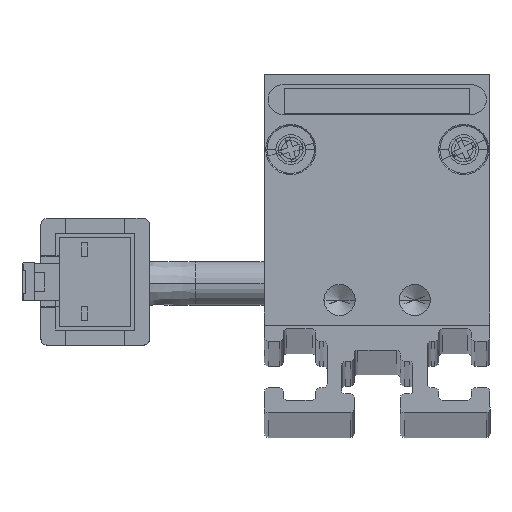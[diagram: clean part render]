
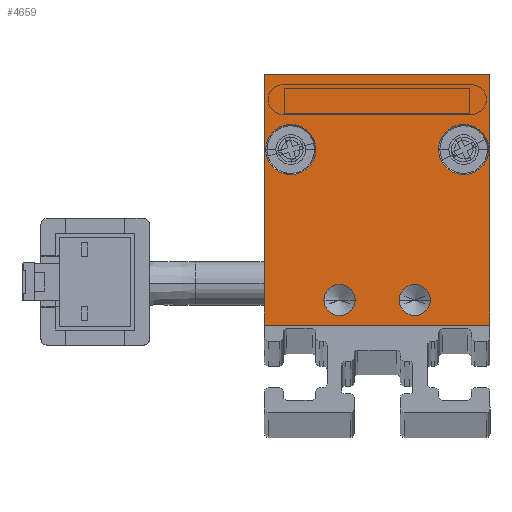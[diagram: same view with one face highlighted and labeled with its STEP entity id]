
A CAD part, top view. The second image highlights one B-rep face of the part: STEP entity #4659.
In plain terms, the highlighted planar face has unit normal (0, 0, 1) as drawn and (0, 0, -1) by its records, which use the part's own axes.
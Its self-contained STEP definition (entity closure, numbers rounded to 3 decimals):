
#134 = CIRCLE ( 'NONE', #8807, 1.25 ) ;
#322 = ORIENTED_EDGE ( 'NONE', *, *, #5099, .F. ) ;
#612 = CIRCLE ( 'NONE', #7459, 1.25 ) ;
#624 = VECTOR ( 'NONE', #8950, 1000. ) ;
#724 = DIRECTION ( 'NONE',  ( -1., 0., 0. ) ) ;
#808 = LINE ( 'NONE', #6483, #10125 ) ;
#876 = CARTESIAN_POINT ( 'NONE',  ( 8.9, 14., -2.5 ) ) ;
#1045 = DIRECTION ( 'NONE',  ( 0., -1., 0. ) ) ;
#1299 = CARTESIAN_POINT ( 'NONE',  ( 9., 20., -2.5 ) ) ;
#1657 = ORIENTED_EDGE ( 'NONE', *, *, #1908, .F. ) ;
#1800 = VERTEX_POINT ( 'NONE', #876 ) ;
#1811 = EDGE_CURVE ( 'NONE', #2654, #5272, #3665, .T. ) ;
#1815 = DIRECTION ( 'NONE',  ( 0., 0., -1. ) ) ;
#1852 = CIRCLE ( 'NONE', #8911, 2. ) ;
#1891 = CARTESIAN_POINT ( 'NONE',  ( 1.75, 2., -2.5 ) ) ;
#1908 = EDGE_CURVE ( 'NONE', #2662, #10250, #808, .T. ) ;
#2478 = DIRECTION ( 'NONE',  ( 1., 0., 0. ) ) ;
#2497 = CARTESIAN_POINT ( 'NONE',  ( 6.9, 14., -2.5 ) ) ;
#2654 = VERTEX_POINT ( 'NONE', #10065 ) ;
#2662 = VERTEX_POINT ( 'NONE', #4433 ) ;
#2724 = DIRECTION ( 'NONE',  ( -1., 0., 0. ) ) ;
#2842 = VECTOR ( 'NONE', #2478, 1000. ) ;
#3030 = CIRCLE ( 'NONE', #7474, 1.25 ) ;
#3171 = EDGE_LOOP ( 'NONE', ( #322, #1657, #4487, #11681 ) ) ;
#3452 = DIRECTION ( 'NONE',  ( -1., 0., 0. ) ) ;
#3475 = CARTESIAN_POINT ( 'NONE',  ( -6.9, 14., -2.5 ) ) ;
#3518 = CARTESIAN_POINT ( 'NONE',  ( -9., 20., -2.5 ) ) ;
#3665 = CIRCLE ( 'NONE', #7897, 2. ) ;
#3709 = CARTESIAN_POINT ( 'NONE',  ( -6.9, 14., -2.5 ) ) ;
#3867 = CIRCLE ( 'NONE', #5066, 1.25 ) ;
#3903 = DIRECTION ( 'NONE',  ( 1., 0., 0. ) ) ;
#4241 = DIRECTION ( 'NONE',  ( 0., 0., -1. ) ) ;
#4433 = CARTESIAN_POINT ( 'NONE',  ( 9., 20., -2.5 ) ) ;
#4487 = ORIENTED_EDGE ( 'NONE', *, *, #8927, .F. ) ;
#4659 = ADVANCED_FACE ( 'NONE', ( #5653, #12359, #4773, #11543, #7614 ), #9654, .F. ) ;
#4773 = FACE_BOUND ( 'NONE', #11404, .T. ) ;
#5066 = AXIS2_PLACEMENT_3D ( 'NONE', #10307, #5743, #2724 ) ;
#5099 = EDGE_CURVE ( 'NONE', #10250, #10724, #5567, .T. ) ;
#5272 = VERTEX_POINT ( 'NONE', #11884 ) ;
#5434 = CARTESIAN_POINT ( 'NONE',  ( -9., 0., -2.5 ) ) ;
#5510 = DIRECTION ( 'NONE',  ( 0., 0., -1. ) ) ;
#5567 = LINE ( 'NONE', #11588, #9630 ) ;
#5653 = FACE_BOUND ( 'NONE', #7984, .T. ) ;
#5679 = EDGE_LOOP ( 'NONE', ( #12428, #7515 ) ) ;
#5743 = DIRECTION ( 'NONE',  ( 0., 0., -1. ) ) ;
#5942 = ORIENTED_EDGE ( 'NONE', *, *, #6111, .F. ) ;
#6059 = ORIENTED_EDGE ( 'NONE', *, *, #11824, .F. ) ;
#6098 = CARTESIAN_POINT ( 'NONE',  ( -3., 2., -2.5 ) ) ;
#6111 = EDGE_CURVE ( 'NONE', #1800, #11290, #8693, .T. ) ;
#6356 = EDGE_CURVE ( 'NONE', #8385, #12085, #3030, .T. ) ;
#6411 = DIRECTION ( 'NONE',  ( -1., 0., 0. ) ) ;
#6483 = CARTESIAN_POINT ( 'NONE',  ( -9., 20., -2.5 ) ) ;
#6504 = ORIENTED_EDGE ( 'NONE', *, *, #6356, .F. ) ;
#6562 = EDGE_CURVE ( 'NONE', #10724, #10153, #10251, .T. ) ;
#6971 = DIRECTION ( 'NONE',  ( -1., 0., 0. ) ) ;
#7211 = ORIENTED_EDGE ( 'NONE', *, *, #12304, .F. ) ;
#7294 = CARTESIAN_POINT ( 'NONE',  ( 6.9, 14., -2.5 ) ) ;
#7312 = DIRECTION ( 'NONE',  ( 0., 0., -1. ) ) ;
#7459 = AXIS2_PLACEMENT_3D ( 'NONE', #9954, #7978, #6971 ) ;
#7474 = AXIS2_PLACEMENT_3D ( 'NONE', #11780, #4241, #9880 ) ;
#7507 = DIRECTION ( 'NONE',  ( -1., 0., 0. ) ) ;
#7515 = ORIENTED_EDGE ( 'NONE', *, *, #1811, .F. ) ;
#7572 = CARTESIAN_POINT ( 'NONE',  ( 4.9, 14., -2.5 ) ) ;
#7614 = FACE_OUTER_BOUND ( 'NONE', #3171, .T. ) ;
#7628 = ORIENTED_EDGE ( 'NONE', *, *, #11350, .F. ) ;
#7803 = DIRECTION ( 'NONE',  ( 0., 0., 1. ) ) ;
#7897 = AXIS2_PLACEMENT_3D ( 'NONE', #3709, #1815, #12295 ) ;
#7978 = DIRECTION ( 'NONE',  ( 0., 0., -1. ) ) ;
#7984 = EDGE_LOOP ( 'NONE', ( #12207, #5942 ) ) ;
#7996 = DIRECTION ( 'NONE',  ( 0., 0., -1. ) ) ;
#8268 = AXIS2_PLACEMENT_3D ( 'NONE', #2497, #5510, #724 ) ;
#8385 = VERTEX_POINT ( 'NONE', #11494 ) ;
#8610 = CIRCLE ( 'NONE', #11632, 2. ) ;
#8641 = CARTESIAN_POINT ( 'NONE',  ( 0., 0., -2.5 ) ) ;
#8693 = CIRCLE ( 'NONE', #8268, 2. ) ;
#8807 = AXIS2_PLACEMENT_3D ( 'NONE', #6098, #7996, #9850 ) ;
#8832 = LINE ( 'NONE', #1299, #624 ) ;
#8911 = AXIS2_PLACEMENT_3D ( 'NONE', #7294, #11221, #3452 ) ;
#8927 = EDGE_CURVE ( 'NONE', #10153, #2662, #8832, .T. ) ;
#8950 = DIRECTION ( 'NONE',  ( 0., 1., 0. ) ) ;
#9630 = VECTOR ( 'NONE', #1045, 1000. ) ;
#9654 = PLANE ( 'NONE',  #10019 ) ;
#9850 = DIRECTION ( 'NONE',  ( -1., 0., 0. ) ) ;
#9880 = DIRECTION ( 'NONE',  ( -1., 0., 0. ) ) ;
#9954 = CARTESIAN_POINT ( 'NONE',  ( 3., 2., -2.5 ) ) ;
#10019 = AXIS2_PLACEMENT_3D ( 'NONE', #8641, #7803, #3903 ) ;
#10035 = VERTEX_POINT ( 'NONE', #1891 ) ;
#10062 = EDGE_LOOP ( 'NONE', ( #6504, #7211 ) ) ;
#10065 = CARTESIAN_POINT ( 'NONE',  ( -4.9, 14., -2.5 ) ) ;
#10125 = VECTOR ( 'NONE', #6411, 1000. ) ;
#10153 = VERTEX_POINT ( 'NONE', #11740 ) ;
#10250 = VERTEX_POINT ( 'NONE', #3518 ) ;
#10251 = LINE ( 'NONE', #5434, #2842 ) ;
#10288 = EDGE_CURVE ( 'NONE', #11290, #1800, #1852, .T. ) ;
#10307 = CARTESIAN_POINT ( 'NONE',  ( 3., 2., -2.5 ) ) ;
#10724 = VERTEX_POINT ( 'NONE', #12080 ) ;
#11051 = VERTEX_POINT ( 'NONE', #11879 ) ;
#11221 = DIRECTION ( 'NONE',  ( 0., 0., -1. ) ) ;
#11290 = VERTEX_POINT ( 'NONE', #7572 ) ;
#11336 = CARTESIAN_POINT ( 'NONE',  ( -1.75, 2., -2.5 ) ) ;
#11350 = EDGE_CURVE ( 'NONE', #11051, #10035, #3867, .T. ) ;
#11404 = EDGE_LOOP ( 'NONE', ( #6059, #7628 ) ) ;
#11494 = CARTESIAN_POINT ( 'NONE',  ( -4.25, 2., -2.5 ) ) ;
#11543 = FACE_BOUND ( 'NONE', #10062, .T. ) ;
#11588 = CARTESIAN_POINT ( 'NONE',  ( -9., 20., -2.5 ) ) ;
#11632 = AXIS2_PLACEMENT_3D ( 'NONE', #3475, #7312, #7507 ) ;
#11681 = ORIENTED_EDGE ( 'NONE', *, *, #6562, .F. ) ;
#11740 = CARTESIAN_POINT ( 'NONE',  ( 9., 0., -2.5 ) ) ;
#11780 = CARTESIAN_POINT ( 'NONE',  ( -3., 2., -2.5 ) ) ;
#11824 = EDGE_CURVE ( 'NONE', #10035, #11051, #612, .T. ) ;
#11879 = CARTESIAN_POINT ( 'NONE',  ( 4.25, 2., -2.5 ) ) ;
#11884 = CARTESIAN_POINT ( 'NONE',  ( -8.9, 14., -2.5 ) ) ;
#12080 = CARTESIAN_POINT ( 'NONE',  ( -9., 0., -2.5 ) ) ;
#12085 = VERTEX_POINT ( 'NONE', #11336 ) ;
#12207 = ORIENTED_EDGE ( 'NONE', *, *, #10288, .F. ) ;
#12279 = EDGE_CURVE ( 'NONE', #5272, #2654, #8610, .T. ) ;
#12295 = DIRECTION ( 'NONE',  ( -1., 0., 0. ) ) ;
#12304 = EDGE_CURVE ( 'NONE', #12085, #8385, #134, .T. ) ;
#12359 = FACE_BOUND ( 'NONE', #5679, .T. ) ;
#12428 = ORIENTED_EDGE ( 'NONE', *, *, #12279, .F. ) ;
